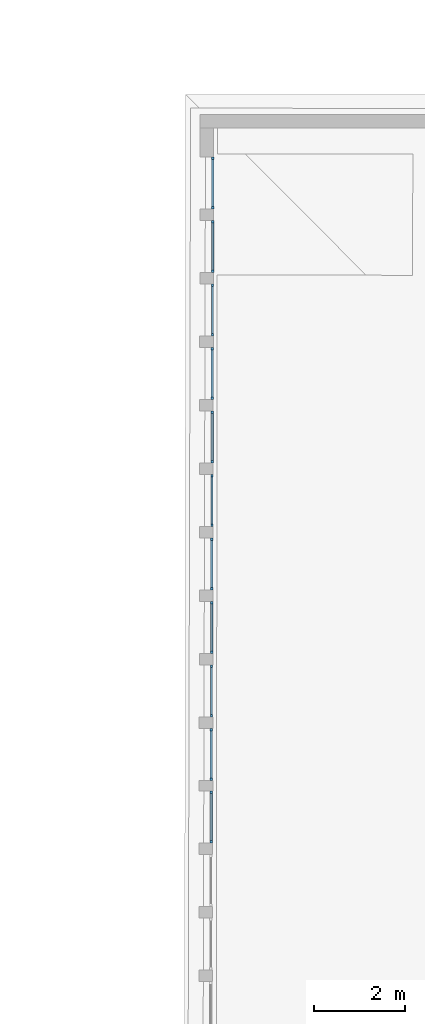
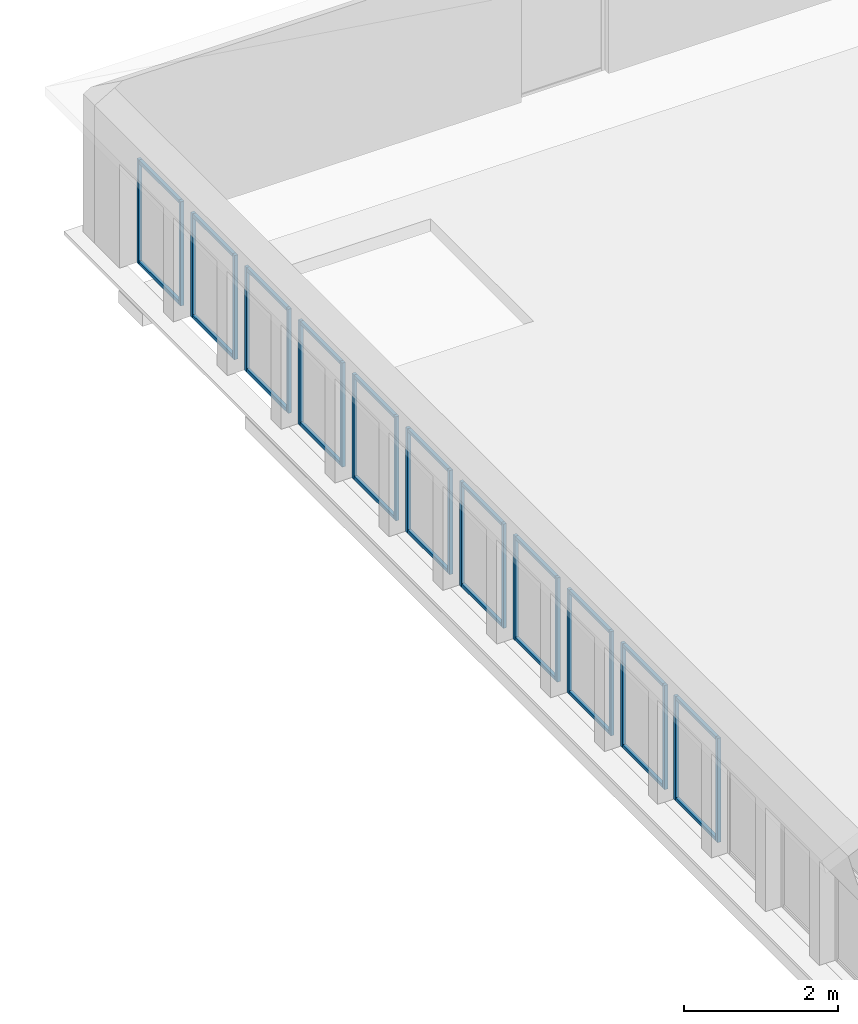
# One storey, part 12 of 26: 44 members, 11 elements without a shape of their own.
"""IFC2X3 building model written with IfcOpenShell, lengths in metres."""

from ifc_helpers import new_model, entity, si_unit, converted_unit, derived_unit, direction, frame, origin, origin_2d_with_axis, place, context, subcontext, project, spatial, rectangle, extrude, source, transform, mapped, material, type_object, type_shapes, element, aggregate, save


model = new_model("IFC2X3")

# Units and contexts
model_context = context("Model", 3, precision=1e-05, world=origin(), true_north=direction((6.123233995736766e-17, 1.0)))
body_context = subcontext(model_context, "Body", "Model", "MODEL_VIEW")
ifc_project = project(units=[si_unit("LENGTHUNIT", "METRE"), si_unit("AREAUNIT", "SQUARE_METRE"), converted_unit("PLANEANGLEUNIT", "DEGREE", entity("IfcPlaneAngleMeasure", 0.017453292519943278), si_unit("PLANEANGLEUNIT", "RADIAN"), dimensions=[0, 0, 0, 0, 0, 0, 0]), derived_unit("THERMALTRANSMITTANCEUNIT", [(si_unit("MASSUNIT", "GRAM", prefix="KILO"), 1), (si_unit("THERMODYNAMICTEMPERATUREUNIT", "KELVIN"), -1), (si_unit("TIMEUNIT", "SECOND"), -3)])], contexts=[model_context])

# Site, building, storey
site_placement = place(None, frame((1253.6752467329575, 2072.143113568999, 91.49999999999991), z_axis=(0.0, 0.0, 1.0), x_axis=(0.7237211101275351, 0.6900925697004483, 0.0)))
site = spatial("IfcSite", under=ifc_project, at=site_placement, Name="Surface", CompositionType="ELEMENT")
building_placement = place(site_placement, origin())
building = spatial("IfcBuilding", under=site, at=building_placement, CompositionType="ELEMENT")
storey_placement = place(building_placement, frame((0.0, 0.0, 7.0)))
storey = spatial("IfcBuildingStorey", under=building, at=storey_placement, Name="2-R+2", CompositionType="ELEMENT", Elevation=6.999999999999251)

# Curtain wall, member
curtain_wall_type = type_object("IfcCurtainWallType", Name="Mur-rideau:Menuiserie Ext 1F+1OB VERTIC", PredefinedType="NOTDEFINED")
curtain_wall_1_placement = place(storey_placement, frame((0.0, 0.0, -7.0)))
curtain_wall_1 = element("IfcCurtainWall", 1, at=curtain_wall_1_placement, inside=storey, type_object=curtain_wall_type, Name="Mur-rideau:Menuiserie Ext 1F+1OB VERTIC", ObjectType="Mur-rideau:Menuiserie Ext 1F+1OB VERTIC")
ifc_material = material(Name="OMD_Aluminium Men Ext")
member_type_1 = type_object("IfcMemberType", Name="Meneau rectangulaire:50x50", PredefinedType="MULLION", material=ifc_material)
shared_shape_1 = source(origin(), body_context, "Body", "SweptSolid", [
    extrude(rectangle(XDim=0.05, YDim=0.049999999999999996, at=origin_2d_with_axis()), frame((-0.025, 0.0, -1.039999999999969), z_axis=(0.0, 0.0, 1.0), x_axis=(-1.0, 0.0, 0.0)), (0.0, 0.0, 1.0), 1.0399999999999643),
])
type_shapes(member_type_1, [shared_shape_1])
member_1_placement = place(curtain_wall_1_placement, frame((191.1403253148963, 2.551136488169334, 9.55), z_axis=(0.6909838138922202, 0.7228702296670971, 0.0), x_axis=(0.0, 0.0, 1.0)))
member_1 = element("IfcMember", 2, at=member_1_placement, type_object=member_type_1, material=ifc_material, Name="Meneau rectangulaire:50x50", ObjectType="Meneau rectangulaire:50x50", context=body_context, shape_type="MappedRepresentation", body=[
    mapped(shared_shape_1, transform((0.0, 0.0, 0.0), scale=1.0)),
])

curtain_wall_2_placement = place(storey_placement, frame((0.0, 0.0, -7.0)))
curtain_wall_2 = element("IfcCurtainWall", 3, at=curtain_wall_2_placement, inside=storey, type_object=curtain_wall_type, Name="Mur-rideau:Menuiserie Ext 1F+1OB VERTIC", ObjectType="Mur-rideau:Menuiserie Ext 1F+1OB VERTIC")
member_2_placement = place(curtain_wall_2_placement, frame((190.1715598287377, 1.5404469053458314, 9.55), z_axis=(0.69098381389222, 0.7228702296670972, 0.0), x_axis=(0.0, 0.0, 1.0)))
member_2 = element("IfcMember", 4, at=member_2_placement, type_object=member_type_1, material=ifc_material, Name="Meneau rectangulaire:50x50", ObjectType="Meneau rectangulaire:50x50", context=body_context, shape_type="MappedRepresentation", body=[
    mapped(shared_shape_1, transform((0.0, 0.0, 0.0), scale=1.0)),
])

curtain_wall_3_placement = place(storey_placement, frame((0.0, 0.0, -7.0)))
curtain_wall_3 = element("IfcCurtainWall", 5, at=curtain_wall_3_placement, inside=storey, type_object=curtain_wall_type, Name="Mur-rideau:Menuiserie Ext 1F+1OB VERTIC", ObjectType="Mur-rideau:Menuiserie Ext 1F+1OB VERTIC")
member_3_placement = place(curtain_wall_3_placement, frame((189.20279434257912, 0.5297573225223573, 9.55), z_axis=(0.69098381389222, 0.7228702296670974, 0.0), x_axis=(0.0, 0.0, 1.0)))
member_3 = element("IfcMember", 6, at=member_3_placement, type_object=member_type_1, material=ifc_material, Name="Meneau rectangulaire:50x50", ObjectType="Meneau rectangulaire:50x50", context=body_context, shape_type="MappedRepresentation", body=[
    mapped(shared_shape_1, transform((0.0, 0.0, 0.0), scale=1.0)),
])

curtain_wall_4_placement = place(storey_placement, frame((0.0, 0.0, -7.0)))
curtain_wall_4 = element("IfcCurtainWall", 7, at=curtain_wall_4_placement, inside=storey, type_object=curtain_wall_type, Name="Mur-rideau:Menuiserie Ext 1F+1OB VERTIC", ObjectType="Mur-rideau:Menuiserie Ext 1F+1OB VERTIC")
member_4_placement = place(curtain_wall_4_placement, frame((188.23402885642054, -0.480932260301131, 9.55), z_axis=(0.69098381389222, 0.7228702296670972, 0.0), x_axis=(0.0, 0.0, 1.0)))
member_4 = element("IfcMember", 8, at=member_4_placement, type_object=member_type_1, material=ifc_material, Name="Meneau rectangulaire:50x50", ObjectType="Meneau rectangulaire:50x50", context=body_context, shape_type="MappedRepresentation", body=[
    mapped(shared_shape_1, transform((0.0, 0.0, 0.0), scale=1.0)),
])

curtain_wall_5_placement = place(storey_placement, frame((0.0, 0.0, -7.0)))
curtain_wall_5 = element("IfcCurtainWall", 9, at=curtain_wall_5_placement, inside=storey, type_object=curtain_wall_type, Name="Mur-rideau:Menuiserie Ext 1F+1OB VERTIC", ObjectType="Mur-rideau:Menuiserie Ext 1F+1OB VERTIC")
member_5_placement = place(curtain_wall_5_placement, frame((187.26526337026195, -1.491621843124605, 9.55), z_axis=(0.69098381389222, 0.7228702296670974, 0.0), x_axis=(0.0, 0.0, 1.0)))
member_5 = element("IfcMember", 10, at=member_5_placement, type_object=member_type_1, material=ifc_material, Name="Meneau rectangulaire:50x50", ObjectType="Meneau rectangulaire:50x50", context=body_context, shape_type="MappedRepresentation", body=[
    mapped(shared_shape_1, transform((0.0, 0.0, 0.0), scale=1.0)),
])

curtain_wall_6_placement = place(storey_placement, frame((0.0, 0.0, -7.0)))
curtain_wall_6 = element("IfcCurtainWall", 11, at=curtain_wall_6_placement, inside=storey, type_object=curtain_wall_type, Name="Mur-rideau:Menuiserie Ext 1F+1OB VERTIC", ObjectType="Mur-rideau:Menuiserie Ext 1F+1OB VERTIC")
member_6_placement = place(curtain_wall_6_placement, frame((186.2964978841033, -2.502311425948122, 9.55), z_axis=(0.6909838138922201, 0.7228702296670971, 0.0), x_axis=(0.0, 0.0, 1.0)))
member_6 = element("IfcMember", 12, at=member_6_placement, type_object=member_type_1, material=ifc_material, Name="Meneau rectangulaire:50x50", ObjectType="Meneau rectangulaire:50x50", context=body_context, shape_type="MappedRepresentation", body=[
    mapped(shared_shape_1, transform((0.0, 0.0, 0.0), scale=1.0)),
])

curtain_wall_7_placement = place(storey_placement, frame((0.0, 0.0, -7.0)))
curtain_wall_7 = element("IfcCurtainWall", 13, at=curtain_wall_7_placement, inside=storey, type_object=curtain_wall_type, Name="Mur-rideau:Menuiserie Ext 1F+1OB VERTIC", ObjectType="Mur-rideau:Menuiserie Ext 1F+1OB VERTIC")
member_7_placement = place(curtain_wall_7_placement, frame((185.32773239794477, -3.513001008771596, 9.55), z_axis=(0.6909838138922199, 0.7228702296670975, 0.0), x_axis=(0.0, 0.0, 1.0)))
member_7 = element("IfcMember", 14, at=member_7_placement, type_object=member_type_1, material=ifc_material, Name="Meneau rectangulaire:50x50", ObjectType="Meneau rectangulaire:50x50", context=body_context, shape_type="MappedRepresentation", body=[
    mapped(shared_shape_1, transform((0.0, 0.0, 0.0), scale=1.0)),
])

curtain_wall_8_placement = place(storey_placement, frame((0.0, 0.0, -7.0)))
curtain_wall_8 = element("IfcCurtainWall", 15, at=curtain_wall_8_placement, inside=storey, type_object=curtain_wall_type, Name="Mur-rideau:Menuiserie Ext 1F+1OB VERTIC", ObjectType="Mur-rideau:Menuiserie Ext 1F+1OB VERTIC")
member_8_placement = place(curtain_wall_8_placement, frame((184.35896691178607, -4.52369059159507, 9.55), z_axis=(0.6909838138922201, 0.7228702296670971, 0.0), x_axis=(0.0, 0.0, 1.0)))
member_8 = element("IfcMember", 16, at=member_8_placement, type_object=member_type_1, material=ifc_material, Name="Meneau rectangulaire:50x50", ObjectType="Meneau rectangulaire:50x50", context=body_context, shape_type="MappedRepresentation", body=[
    mapped(shared_shape_1, transform((0.0, 0.0, 0.0), scale=1.0)),
])

curtain_wall_9_placement = place(storey_placement, frame((0.0, 0.0, -7.0)))
curtain_wall_9 = element("IfcCurtainWall", 17, at=curtain_wall_9_placement, inside=storey, type_object=curtain_wall_type, Name="Mur-rideau:Menuiserie Ext 1F+1OB VERTIC", ObjectType="Mur-rideau:Menuiserie Ext 1F+1OB VERTIC")
member_9_placement = place(curtain_wall_9_placement, frame((183.3902014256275, -5.534380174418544, 9.55), z_axis=(0.6909838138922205, 0.7228702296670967, 0.0), x_axis=(0.0, 0.0, 1.0)))
member_9 = element("IfcMember", 18, at=member_9_placement, type_object=member_type_1, material=ifc_material, Name="Meneau rectangulaire:50x50", ObjectType="Meneau rectangulaire:50x50", context=body_context, shape_type="MappedRepresentation", body=[
    mapped(shared_shape_1, transform((0.0, 0.0, 0.0), scale=1.0)),
])

curtain_wall_10_placement = place(storey_placement, frame((0.0, 0.0, -7.0)))
curtain_wall_10 = element("IfcCurtainWall", 19, at=curtain_wall_10_placement, inside=storey, type_object=curtain_wall_type, Name="Mur-rideau:Menuiserie Ext 1F+1OB VERTIC", ObjectType="Mur-rideau:Menuiserie Ext 1F+1OB VERTIC")
member_10_placement = place(curtain_wall_10_placement, frame((182.42143593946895, -6.545069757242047, 9.55), z_axis=(0.6909838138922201, 0.7228702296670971, 0.0), x_axis=(0.0, 0.0, 1.0)))
member_10 = element("IfcMember", 20, at=member_10_placement, type_object=member_type_1, material=ifc_material, Name="Meneau rectangulaire:50x50", ObjectType="Meneau rectangulaire:50x50", context=body_context, shape_type="MappedRepresentation", body=[
    mapped(shared_shape_1, transform((0.0, 0.0, 0.0), scale=1.0)),
])

curtain_wall_11_placement = place(storey_placement, frame((0.0, 0.0, -7.0)))
curtain_wall_11 = element("IfcCurtainWall", 21, at=curtain_wall_11_placement, inside=storey, type_object=curtain_wall_type, Name="Mur-rideau:Menuiserie Ext 1F+1OB VERTIC", ObjectType="Mur-rideau:Menuiserie Ext 1F+1OB VERTIC")
member_11_placement = place(curtain_wall_11_placement, frame((181.46650996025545, -7.54132091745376, 9.55), z_axis=(0.6909838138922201, 0.7228702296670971, 0.0), x_axis=(0.0, 0.0, 1.0)))
member_11 = element("IfcMember", 22, at=member_11_placement, type_object=member_type_1, material=ifc_material, Name="Meneau rectangulaire:50x50", ObjectType="Meneau rectangulaire:50x50", context=body_context, shape_type="MappedRepresentation", body=[
    mapped(shared_shape_1, transform((0.0, 0.0, 0.0), scale=1.0)),
])

# Member
member_type_2 = type_object("IfcMemberType", Name="Meneau rectangulaire:50x50", PredefinedType="MULLION", material=ifc_material)
shared_shape_2 = source(origin(), body_context, "Body", "SweptSolid", [
    extrude(rectangle(XDim=0.05, YDim=0.05, at=origin_2d_with_axis()), frame((-0.025, 0.0, -1.0399999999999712), z_axis=(0.0, 0.0, 1.0), x_axis=(-1.0, 0.0, 0.0)), (0.0, 0.0, 1.0), 1.0399999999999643),
])
type_shapes(member_type_2, [shared_shape_2])
member_12_placement = place(curtain_wall_1_placement, frame((190.4217021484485, 1.7993514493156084, 7.9), z_axis=(-0.6909838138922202, -0.7228702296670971, 0.0), x_axis=(0.0, 0.0, -1.0)))
member_12 = element("IfcMember", 23, at=member_12_placement, type_object=member_type_2, material=ifc_material, Name="Meneau rectangulaire:50x50", ObjectType="Meneau rectangulaire:50x50", context=body_context, shape_type="MappedRepresentation", body=[
    mapped(shared_shape_2, transform((0.0, 0.0, 0.0), scale=1.0)),
])

member_13_placement = place(curtain_wall_2_placement, frame((189.45293666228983, 0.7886618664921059, 7.9), z_axis=(-0.69098381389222, -0.7228702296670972, 0.0), x_axis=(0.0, 0.0, -1.0)))
member_13 = element("IfcMember", 24, at=member_13_placement, type_object=member_type_2, material=ifc_material, Name="Meneau rectangulaire:50x50", ObjectType="Meneau rectangulaire:50x50", context=body_context, shape_type="MappedRepresentation", body=[
    mapped(shared_shape_2, transform((0.0, 0.0, 0.0), scale=1.0)),
])

member_14_placement = place(curtain_wall_3_placement, frame((188.48417117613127, -0.22202771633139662, 7.9), z_axis=(-0.69098381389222, -0.7228702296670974, 0.0), x_axis=(0.0, 0.0, -1.0)))
member_14 = element("IfcMember", 25, at=member_14_placement, type_object=member_type_2, material=ifc_material, Name="Meneau rectangulaire:50x50", ObjectType="Meneau rectangulaire:50x50", context=body_context, shape_type="MappedRepresentation", body=[
    mapped(shared_shape_2, transform((0.0, 0.0, 0.0), scale=1.0)),
])

member_15_placement = place(curtain_wall_4_placement, frame((187.51540568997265, -1.2327172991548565, 7.9), z_axis=(-0.69098381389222, -0.7228702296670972, 0.0), x_axis=(0.0, 0.0, -1.0)))
member_15 = element("IfcMember", 26, at=member_15_placement, type_object=member_type_2, material=ifc_material, Name="Meneau rectangulaire:50x50", ObjectType="Meneau rectangulaire:50x50", context=body_context, shape_type="MappedRepresentation", body=[
    mapped(shared_shape_2, transform((0.0, 0.0, 0.0), scale=1.0)),
])

member_16_placement = place(curtain_wall_5_placement, frame((186.5466402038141, -2.243406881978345, 7.9), z_axis=(-0.69098381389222, -0.7228702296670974, 0.0), x_axis=(0.0, 0.0, -1.0)))
member_16 = element("IfcMember", 27, at=member_16_placement, type_object=member_type_2, material=ifc_material, Name="Meneau rectangulaire:50x50", ObjectType="Meneau rectangulaire:50x50", context=body_context, shape_type="MappedRepresentation", body=[
    mapped(shared_shape_2, transform((0.0, 0.0, 0.0), scale=1.0)),
])

member_17_placement = place(curtain_wall_6_placement, frame((185.57787471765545, -3.2540964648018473, 7.9), z_axis=(-0.6909838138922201, -0.7228702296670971, 0.0), x_axis=(0.0, 0.0, -1.0)))
member_17 = element("IfcMember", 28, at=member_17_placement, type_object=member_type_2, material=ifc_material, Name="Meneau rectangulaire:50x50", ObjectType="Meneau rectangulaire:50x50", context=body_context, shape_type="MappedRepresentation", body=[
    mapped(shared_shape_2, transform((0.0, 0.0, 0.0), scale=1.0)),
])

member_18_placement = place(curtain_wall_7_placement, frame((184.60910923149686, -4.264786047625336, 7.9), z_axis=(-0.6909838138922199, -0.7228702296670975, 0.0), x_axis=(0.0, 0.0, -1.0)))
member_18 = element("IfcMember", 29, at=member_18_placement, type_object=member_type_2, material=ifc_material, Name="Meneau rectangulaire:50x50", ObjectType="Meneau rectangulaire:50x50", context=body_context, shape_type="MappedRepresentation", body=[
    mapped(shared_shape_2, transform((0.0, 0.0, 0.0), scale=1.0)),
])

member_19_placement = place(curtain_wall_8_placement, frame((183.64034374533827, -5.275475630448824, 7.9), z_axis=(-0.6909838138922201, -0.7228702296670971, 0.0), x_axis=(0.0, 0.0, -1.0)))
member_19 = element("IfcMember", 30, at=member_19_placement, type_object=member_type_2, material=ifc_material, Name="Meneau rectangulaire:50x50", ObjectType="Meneau rectangulaire:50x50", context=body_context, shape_type="MappedRepresentation", body=[
    mapped(shared_shape_2, transform((0.0, 0.0, 0.0), scale=1.0)),
])

member_20_placement = place(curtain_wall_9_placement, frame((182.67157825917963, -6.286165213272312, 7.9), z_axis=(-0.6909838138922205, -0.7228702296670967, 0.0), x_axis=(0.0, 0.0, -1.0)))
member_20 = element("IfcMember", 31, at=member_20_placement, type_object=member_type_2, material=ifc_material, Name="Meneau rectangulaire:50x50", ObjectType="Meneau rectangulaire:50x50", context=body_context, shape_type="MappedRepresentation", body=[
    mapped(shared_shape_2, transform((0.0, 0.0, 0.0), scale=1.0)),
])

member_21_placement = place(curtain_wall_10_placement, frame((181.70281277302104, -7.296854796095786, 7.9), z_axis=(-0.6909838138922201, -0.7228702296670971, 0.0), x_axis=(0.0, 0.0, -1.0)))
member_21 = element("IfcMember", 32, at=member_21_placement, type_object=member_type_2, material=ifc_material, Name="Meneau rectangulaire:50x50", ObjectType="Meneau rectangulaire:50x50", context=body_context, shape_type="MappedRepresentation", body=[
    mapped(shared_shape_2, transform((0.0, 0.0, 0.0), scale=1.0)),
])

member_22_placement = place(curtain_wall_11_placement, frame((180.74788679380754, -8.293105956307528, 7.9), z_axis=(-0.6909838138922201, -0.7228702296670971, 0.0), x_axis=(0.0, 0.0, -1.0)))
member_22 = element("IfcMember", 33, at=member_22_placement, type_object=member_type_2, material=ifc_material, Name="Meneau rectangulaire:50x50", ObjectType="Meneau rectangulaire:50x50", context=body_context, shape_type="MappedRepresentation", body=[
    mapped(shared_shape_2, transform((0.0, 0.0, 0.0), scale=1.0)),
])

member_type_3 = type_object("IfcMemberType", Name="Meneau rectangulaire:50x50", PredefinedType="MULLION", material=ifc_material)
shared_shape_3 = source(origin(), body_context, "Body", "SweptSolid", [
    extrude(rectangle(XDim=0.05, YDim=0.05, at=origin_2d_with_axis()), frame((-0.025, 0.0, -1.6499999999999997), z_axis=(0.0, 0.0, 1.0), x_axis=(-1.0, 0.0, 0.0)), (0.0, 0.0, 1.0), 1.6499999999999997),
])
type_shapes(member_type_3, [shared_shape_3])
member_23_placement = place(curtain_wall_1_placement, frame((191.17487450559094, 2.5872799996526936, 7.9), z_axis=(0.0, 0.0, -1.0), x_axis=(0.6909838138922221, 0.7228702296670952, 0.0)))
member_23 = element("IfcMember", 34, at=member_23_placement, type_object=member_type_3, material=ifc_material, Name="Meneau rectangulaire:50x50", ObjectType="Meneau rectangulaire:50x50", context=body_context, shape_type="MappedRepresentation", body=[
    mapped(shared_shape_3, transform((0.0, 0.0, 0.0), scale=1.0)),
])

member_24_placement = place(curtain_wall_2_placement, frame((190.20610901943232, 1.5765904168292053, 7.9), z_axis=(0.0, 0.0, -1.0), x_axis=(0.6909838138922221, 0.7228702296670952, 0.0)))
member_24 = element("IfcMember", 35, at=member_24_placement, type_object=member_type_3, material=ifc_material, Name="Meneau rectangulaire:50x50", ObjectType="Meneau rectangulaire:50x50", context=body_context, shape_type="MappedRepresentation", body=[
    mapped(shared_shape_3, transform((0.0, 0.0, 0.0), scale=1.0)),
])

member_25_placement = place(curtain_wall_3_placement, frame((189.23734353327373, 0.565900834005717, 7.9), z_axis=(0.0, 0.0, -1.0), x_axis=(0.6909838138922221, 0.7228702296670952, 0.0)))
member_25 = element("IfcMember", 36, at=member_25_placement, type_object=member_type_3, material=ifc_material, Name="Meneau rectangulaire:50x50", ObjectType="Meneau rectangulaire:50x50", context=body_context, shape_type="MappedRepresentation", body=[
    mapped(shared_shape_3, transform((0.0, 0.0, 0.0), scale=1.0)),
])

member_26_placement = place(curtain_wall_4_placement, frame((188.26857804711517, -0.4447887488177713, 7.9), z_axis=(0.0, 0.0, -1.0), x_axis=(0.6909838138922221, 0.7228702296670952, 0.0)))
member_26 = element("IfcMember", 37, at=member_26_placement, type_object=member_type_3, material=ifc_material, Name="Meneau rectangulaire:50x50", ObjectType="Meneau rectangulaire:50x50", context=body_context, shape_type="MappedRepresentation", body=[
    mapped(shared_shape_3, transform((0.0, 0.0, 0.0), scale=1.0)),
])

member_27_placement = place(curtain_wall_5_placement, frame((187.29981256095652, -1.4554783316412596, 7.9), z_axis=(0.0, 0.0, -1.0), x_axis=(0.6909838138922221, 0.7228702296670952, 0.0)))
member_27 = element("IfcMember", 38, at=member_27_placement, type_object=member_type_3, material=ifc_material, Name="Meneau rectangulaire:50x50", ObjectType="Meneau rectangulaire:50x50", context=body_context, shape_type="MappedRepresentation", body=[
    mapped(shared_shape_3, transform((0.0, 0.0, 0.0), scale=1.0)),
])

member_28_placement = place(curtain_wall_6_placement, frame((186.33104707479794, -2.4661679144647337, 7.9), z_axis=(0.0, 0.0, -1.0), x_axis=(0.6909838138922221, 0.7228702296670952, 0.0)))
member_28 = element("IfcMember", 39, at=member_28_placement, type_object=member_type_3, material=ifc_material, Name="Meneau rectangulaire:50x50", ObjectType="Meneau rectangulaire:50x50", context=body_context, shape_type="MappedRepresentation", body=[
    mapped(shared_shape_3, transform((0.0, 0.0, 0.0), scale=1.0)),
])

member_29_placement = place(curtain_wall_7_placement, frame((185.3622815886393, -3.476857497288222, 7.9), z_axis=(0.0, 0.0, -1.0), x_axis=(0.6909838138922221, 0.7228702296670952, 0.0)))
member_29 = element("IfcMember", 40, at=member_29_placement, type_object=member_type_3, material=ifc_material, Name="Meneau rectangulaire:50x50", ObjectType="Meneau rectangulaire:50x50", context=body_context, shape_type="MappedRepresentation", body=[
    mapped(shared_shape_3, transform((0.0, 0.0, 0.0), scale=1.0)),
])

member_30_placement = place(curtain_wall_8_placement, frame((184.3935161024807, -4.487547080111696, 7.9), z_axis=(0.0, 0.0, -1.0), x_axis=(0.6909838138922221, 0.7228702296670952, 0.0)))
member_30 = element("IfcMember", 41, at=member_30_placement, type_object=member_type_3, material=ifc_material, Name="Meneau rectangulaire:50x50", ObjectType="Meneau rectangulaire:50x50", context=body_context, shape_type="MappedRepresentation", body=[
    mapped(shared_shape_3, transform((0.0, 0.0, 0.0), scale=1.0)),
])

member_31_placement = place(curtain_wall_9_placement, frame((183.42475061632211, -5.498236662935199, 7.9), z_axis=(0.0, 0.0, -1.0), x_axis=(0.6909838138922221, 0.7228702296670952, 0.0)))
member_31 = element("IfcMember", 42, at=member_31_placement, type_object=member_type_3, material=ifc_material, Name="Meneau rectangulaire:50x50", ObjectType="Meneau rectangulaire:50x50", context=body_context, shape_type="MappedRepresentation", body=[
    mapped(shared_shape_3, transform((0.0, 0.0, 0.0), scale=1.0)),
])

member_32_placement = place(curtain_wall_10_placement, frame((182.45598513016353, -6.508926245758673, 7.9), z_axis=(0.0, 0.0, -1.0), x_axis=(0.6909838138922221, 0.7228702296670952, 0.0)))
member_32 = element("IfcMember", 43, at=member_32_placement, type_object=member_type_3, material=ifc_material, Name="Meneau rectangulaire:50x50", ObjectType="Meneau rectangulaire:50x50", context=body_context, shape_type="MappedRepresentation", body=[
    mapped(shared_shape_3, transform((0.0, 0.0, 0.0), scale=1.0)),
])

member_33_placement = place(curtain_wall_11_placement, frame((181.50105915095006, -7.5051774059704, 7.9), z_axis=(0.0, 0.0, -1.0), x_axis=(0.6909838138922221, 0.7228702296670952, 0.0)))
member_33 = element("IfcMember", 44, at=member_33_placement, type_object=member_type_3, material=ifc_material, Name="Meneau rectangulaire:50x50", ObjectType="Meneau rectangulaire:50x50", context=body_context, shape_type="MappedRepresentation", body=[
    mapped(shared_shape_3, transform((0.0, 0.0, 0.0), scale=1.0)),
])

member_type_4 = type_object("IfcMemberType", Name="Meneau rectangulaire:50x50", PredefinedType="MULLION", material=ifc_material)
shared_shape_4 = source(origin(), body_context, "Body", "SweptSolid", [
    extrude(rectangle(XDim=0.05, YDim=0.05000000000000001, at=origin_2d_with_axis()), frame((-0.025, 0.0, -1.6499999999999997), z_axis=(0.0, 0.0, 1.0), x_axis=(-1.0, 0.0, 0.0)), (0.0, 0.0, 1.0), 1.6499999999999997),
])
type_shapes(member_type_4, [shared_shape_4])
member_34_placement = place(curtain_wall_1_placement, frame((190.3871529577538, 1.7632079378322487, 9.55), z_axis=(0.0, 0.0, 1.0), x_axis=(-0.6909838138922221, -0.7228702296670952, 0.0)))
member_34 = element("IfcMember", 45, at=member_34_placement, type_object=member_type_4, material=ifc_material, Name="Meneau rectangulaire:50x50", ObjectType="Meneau rectangulaire:50x50", context=body_context, shape_type="MappedRepresentation", body=[
    mapped(shared_shape_4, transform((0.0, 0.0, 0.0), scale=1.0)),
])

aggregate(curtain_wall_1, [member_1, member_12, member_23, member_34])

member_35_placement = place(curtain_wall_2_placement, frame((189.41838747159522, 0.7525183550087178, 9.55), z_axis=(0.0, 0.0, 1.0), x_axis=(-0.6909838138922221, -0.7228702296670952, 0.0)))
member_35 = element("IfcMember", 46, at=member_35_placement, type_object=member_type_4, material=ifc_material, Name="Meneau rectangulaire:50x50", ObjectType="Meneau rectangulaire:50x50", context=body_context, shape_type="MappedRepresentation", body=[
    mapped(shared_shape_4, transform((0.0, 0.0, 0.0), scale=1.0)),
])

aggregate(curtain_wall_2, [member_2, member_13, member_24, member_35])

member_36_placement = place(curtain_wall_3_placement, frame((188.44962198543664, -0.2581712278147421, 9.55), z_axis=(0.0, 0.0, 1.0), x_axis=(-0.6909838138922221, -0.7228702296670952, 0.0)))
member_36 = element("IfcMember", 47, at=member_36_placement, type_object=member_type_4, material=ifc_material, Name="Meneau rectangulaire:50x50", ObjectType="Meneau rectangulaire:50x50", context=body_context, shape_type="MappedRepresentation", body=[
    mapped(shared_shape_4, transform((0.0, 0.0, 0.0), scale=1.0)),
])

aggregate(curtain_wall_3, [member_3, member_14, member_25, member_36])

member_37_placement = place(curtain_wall_4_placement, frame((187.48085649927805, -1.2688608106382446, 9.55), z_axis=(0.0, 0.0, 1.0), x_axis=(-0.6909838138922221, -0.7228702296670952, 0.0)))
member_37 = element("IfcMember", 48, at=member_37_placement, type_object=member_type_4, material=ifc_material, Name="Meneau rectangulaire:50x50", ObjectType="Meneau rectangulaire:50x50", context=body_context, shape_type="MappedRepresentation", body=[
    mapped(shared_shape_4, transform((0.0, 0.0, 0.0), scale=1.0)),
])

aggregate(curtain_wall_4, [member_4, member_15, member_26, member_37])

member_38_placement = place(curtain_wall_5_placement, frame((186.51209101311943, -2.2795503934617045, 9.55), z_axis=(0.0, 0.0, 1.0), x_axis=(-0.6909838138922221, -0.7228702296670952, 0.0)))
member_38 = element("IfcMember", 49, at=member_38_placement, type_object=member_type_4, material=ifc_material, Name="Meneau rectangulaire:50x50", ObjectType="Meneau rectangulaire:50x50", context=body_context, shape_type="MappedRepresentation", body=[
    mapped(shared_shape_4, transform((0.0, 0.0, 0.0), scale=1.0)),
])

aggregate(curtain_wall_5, [member_5, member_16, member_27, member_38])

member_39_placement = place(curtain_wall_6_placement, frame((185.5433255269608, -3.290239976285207, 9.55), z_axis=(0.0, 0.0, 1.0), x_axis=(-0.6909838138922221, -0.7228702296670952, 0.0)))
member_39 = element("IfcMember", 50, at=member_39_placement, type_object=member_type_4, material=ifc_material, Name="Meneau rectangulaire:50x50", ObjectType="Meneau rectangulaire:50x50", context=body_context, shape_type="MappedRepresentation", body=[
    mapped(shared_shape_4, transform((0.0, 0.0, 0.0), scale=1.0)),
])

aggregate(curtain_wall_6, [member_6, member_17, member_28, member_39])

member_40_placement = place(curtain_wall_7_placement, frame((184.57456004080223, -4.300929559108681, 9.55), z_axis=(0.0, 0.0, 1.0), x_axis=(-0.6909838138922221, -0.7228702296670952, 0.0)))
member_40 = element("IfcMember", 51, at=member_40_placement, type_object=member_type_4, material=ifc_material, Name="Meneau rectangulaire:50x50", ObjectType="Meneau rectangulaire:50x50", context=body_context, shape_type="MappedRepresentation", body=[
    mapped(shared_shape_4, transform((0.0, 0.0, 0.0), scale=1.0)),
])

aggregate(curtain_wall_7, [member_7, member_18, member_29, member_40])

member_41_placement = place(curtain_wall_8_placement, frame((183.60579455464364, -5.311619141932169, 9.55), z_axis=(0.0, 0.0, 1.0), x_axis=(-0.6909838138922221, -0.7228702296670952, 0.0)))
member_41 = element("IfcMember", 52, at=member_41_placement, type_object=member_type_4, material=ifc_material, Name="Meneau rectangulaire:50x50", ObjectType="Meneau rectangulaire:50x50", context=body_context, shape_type="MappedRepresentation", body=[
    mapped(shared_shape_4, transform((0.0, 0.0, 0.0), scale=1.0)),
])

aggregate(curtain_wall_8, [member_8, member_19, member_30, member_41])

member_42_placement = place(curtain_wall_9_placement, frame((182.63702906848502, -6.322308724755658, 9.55), z_axis=(0.0, 0.0, 1.0), x_axis=(-0.6909838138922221, -0.7228702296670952, 0.0)))
member_42 = element("IfcMember", 53, at=member_42_placement, type_object=member_type_4, material=ifc_material, Name="Meneau rectangulaire:50x50", ObjectType="Meneau rectangulaire:50x50", context=body_context, shape_type="MappedRepresentation", body=[
    mapped(shared_shape_4, transform((0.0, 0.0, 0.0), scale=1.0)),
])

aggregate(curtain_wall_9, [member_9, member_20, member_31, member_42])

member_43_placement = place(curtain_wall_10_placement, frame((181.66826358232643, -7.332998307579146, 9.55), z_axis=(0.0, 0.0, 1.0), x_axis=(-0.6909838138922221, -0.7228702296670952, 0.0)))
member_43 = element("IfcMember", 54, at=member_43_placement, type_object=member_type_4, material=ifc_material, Name="Meneau rectangulaire:50x50", ObjectType="Meneau rectangulaire:50x50", context=body_context, shape_type="MappedRepresentation", body=[
    mapped(shared_shape_4, transform((0.0, 0.0, 0.0), scale=1.0)),
])

aggregate(curtain_wall_10, [member_10, member_21, member_32, member_43])

member_44_placement = place(curtain_wall_11_placement, frame((180.71333760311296, -8.329249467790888, 9.55), z_axis=(0.0, 0.0, 1.0), x_axis=(-0.6909838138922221, -0.7228702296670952, 0.0)))
member_44 = element("IfcMember", 55, at=member_44_placement, type_object=member_type_4, material=ifc_material, Name="Meneau rectangulaire:50x50", ObjectType="Meneau rectangulaire:50x50", context=body_context, shape_type="MappedRepresentation", body=[
    mapped(shared_shape_4, transform((0.0, 0.0, 0.0), scale=1.0)),
])

aggregate(curtain_wall_11, [member_11, member_22, member_33, member_44])

save(model, "model.ifc")
